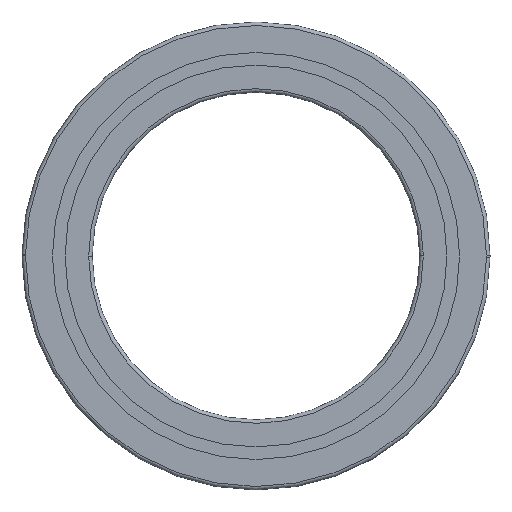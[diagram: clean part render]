
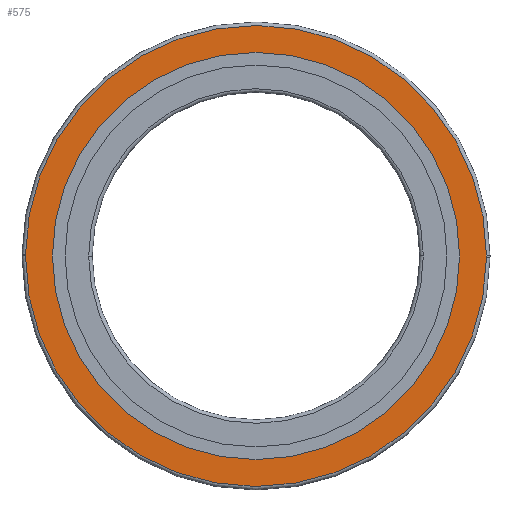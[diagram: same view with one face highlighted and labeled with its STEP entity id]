
A CAD part, front view. The second image highlights one B-rep face of the part: STEP entity #575.
In plain terms, the highlighted planar face has unit normal (0, -1, 0).
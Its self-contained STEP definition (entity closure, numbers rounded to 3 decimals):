
#255=EDGE_CURVE('',#509,#383,#659,.T.);
#259=EDGE_CURVE('',#345,#601,#664,.T.);
#275=EDGE_CURVE('',#601,#509,#681,.T.);
#345=VERTEX_POINT('',#760);
#375=EDGE_CURVE('',#383,#345,#793,.T.);
#383=VERTEX_POINT('',#801);
#469=VERTEX_POINT('',#897);
#471=EDGE_CURVE('',#469,#513,#899,.T.);
#509=VERTEX_POINT('',#940);
#513=VERTEX_POINT('',#944);
#575=ADVANCED_FACE('',(#1019,#1020),#1021,.F.);
#601=VERTEX_POINT('',#1050);
#611=EDGE_CURVE('',#513,#469,#1060,.T.);
#659=CIRCLE('',#1110,98.5);
#664=CIRCLE('',#1116,98.5);
#681=CIRCLE('',#1135,98.5);
#760=CARTESIAN_POINT('',(98.498,0.0,-0.611));
#793=CIRCLE('',#1275,98.5);
#801=CARTESIAN_POINT('',(-98.5,0.0,0.));
#897=CARTESIAN_POINT('',(-87.0,0.0,0.0));
#899=CIRCLE('',#1404,87.0);
#940=CARTESIAN_POINT('',(-98.498,0.0,0.611));
#944=CARTESIAN_POINT('',(87.0,0.0,0.));
#1019=FACE_OUTER_BOUND('',#1556,.T.);
#1020=FACE_BOUND('',#1557,.T.);
#1021=PLANE('',#1558);
#1050=CARTESIAN_POINT('',(98.5,0.0,0.0));
#1060=CIRCLE('',#1604,87.0);
#1110=AXIS2_PLACEMENT_3D('',#1630,#1631,#1632);
#1116=AXIS2_PLACEMENT_3D('',#1641,#1642,#1643);
#1135=AXIS2_PLACEMENT_3D('',#1659,#1660,#1661);
#1275=AXIS2_PLACEMENT_3D('',#1810,#1811,#1812);
#1404=AXIS2_PLACEMENT_3D('',#1943,#1944,#1945);
#1556=EDGE_LOOP('',(#2123,#2124,#2125,#2126));
#1557=EDGE_LOOP('',(#2127,#2128));
#1558=AXIS2_PLACEMENT_3D('',#2129,#2130,#2131);
#1604=AXIS2_PLACEMENT_3D('',#2175,#2176,#2177);
#1630=CARTESIAN_POINT('',(0.0,0.0,0.0));
#1631=DIRECTION('',(0.0,-1.0,0.0));
#1632=DIRECTION('',(1.0,0.0,0.0));
#1641=CARTESIAN_POINT('',(0.0,0.0,0.0));
#1642=DIRECTION('',(0.0,-1.0,0.0));
#1643=DIRECTION('',(-1.0,0.0,0.0));
#1659=CARTESIAN_POINT('',(0.0,0.0,0.0));
#1660=DIRECTION('',(0.0,-1.0,0.0));
#1661=DIRECTION('',(1.0,0.0,0.0));
#1810=CARTESIAN_POINT('',(0.0,0.0,0.0));
#1811=DIRECTION('',(0.0,-1.0,0.0));
#1812=DIRECTION('',(-1.0,0.0,0.0));
#1943=CARTESIAN_POINT('',(0.0,0.0,0.0));
#1944=DIRECTION('',(0.0,-1.0,0.0));
#1945=DIRECTION('',(-1.0,0.0,0.0));
#2123=ORIENTED_EDGE('',*,*,#275,.T.);
#2124=ORIENTED_EDGE('',*,*,#255,.T.);
#2125=ORIENTED_EDGE('',*,*,#375,.T.);
#2126=ORIENTED_EDGE('',*,*,#259,.T.);
#2127=ORIENTED_EDGE('',*,*,#471,.F.);
#2128=ORIENTED_EDGE('',*,*,#611,.F.);
#2129=CARTESIAN_POINT('',(0.0,0.0,0.0));
#2130=DIRECTION('',(0.0,1.0,0.0));
#2131=DIRECTION('',(1.0,0.0,-0.0));
#2175=CARTESIAN_POINT('',(0.0,0.0,0.0));
#2176=DIRECTION('',(0.0,-1.0,0.0));
#2177=DIRECTION('',(1.0,0.0,0.0));
